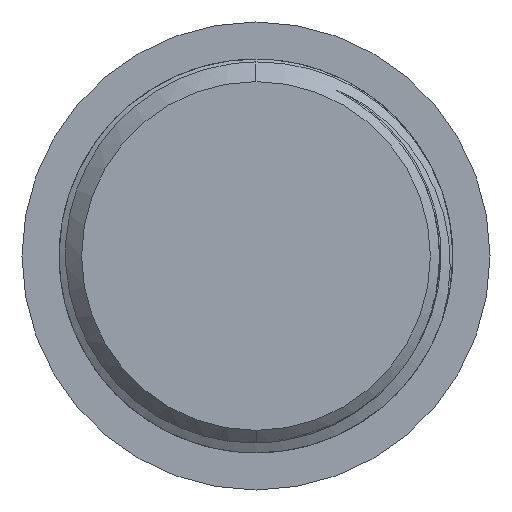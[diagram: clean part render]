
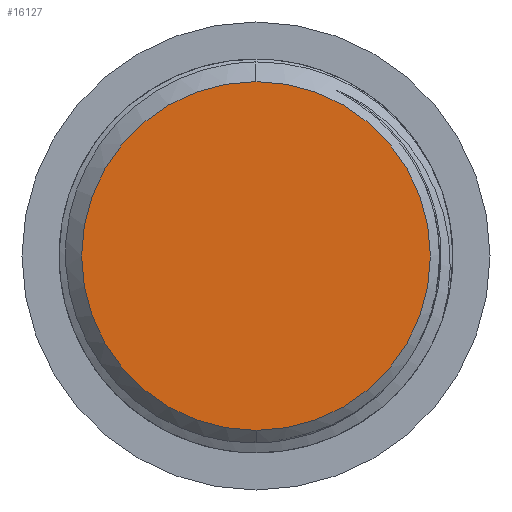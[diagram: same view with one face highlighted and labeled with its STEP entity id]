
A CAD part, left-side view. The second image highlights one B-rep face of the part: STEP entity #16127.
In plain terms, the highlighted planar face has unit normal (-1, 0, 0).
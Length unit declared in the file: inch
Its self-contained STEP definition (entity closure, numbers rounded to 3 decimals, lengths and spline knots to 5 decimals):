
#1159 = AXIS2_PLACEMENT_3D ( 'NONE', #1273, #14649, #5061 ) ;
#1273 = CARTESIAN_POINT ( 'NONE',  ( -1.4025, 0., 0. ) ) ;
#2027 = CIRCLE ( 'NONE', #12960, 0.3875 ) ;
#2493 = VERTEX_POINT ( 'NONE', #5570 ) ;
#3007 = EDGE_LOOP ( 'NONE', ( #10609, #14067 ) ) ;
#3392 = FACE_OUTER_BOUND ( 'NONE', #3007, .T. ) ;
#3484 = DIRECTION ( 'NONE',  ( -1., 0., 0. ) ) ;
#4785 = VERTEX_POINT ( 'NONE', #15247 ) ;
#5061 = DIRECTION ( 'NONE',  ( 0., 0., -1. ) ) ;
#5570 = CARTESIAN_POINT ( 'NONE',  ( -1.4025, 0., -0.3875 ) ) ;
#5936 = CIRCLE ( 'NONE', #1159, 0.3875 ) ;
#8105 = DIRECTION ( 'NONE',  ( 0., 0., -1. ) ) ;
#8361 = DIRECTION ( 'NONE',  ( 1., 0., 0. ) ) ;
#9864 = AXIS2_PLACEMENT_3D ( 'NONE', #14213, #3484, #15432 ) ;
#10609 = ORIENTED_EDGE ( 'NONE', *, *, #11600, .F. ) ;
#11387 = PLANE ( 'NONE',  #9864 ) ;
#11600 = EDGE_CURVE ( 'NONE', #2493, #4785, #5936, .T. ) ;
#12233 = CARTESIAN_POINT ( 'NONE',  ( -1.4025, 0., 0. ) ) ;
#12960 = AXIS2_PLACEMENT_3D ( 'NONE', #12233, #8361, #8105 ) ;
#14067 = ORIENTED_EDGE ( 'NONE', *, *, #15997, .F. ) ;
#14213 = CARTESIAN_POINT ( 'NONE',  ( -1.4025, 0.3875, 0. ) ) ;
#14649 = DIRECTION ( 'NONE',  ( 1., 0., 0. ) ) ;
#15247 = CARTESIAN_POINT ( 'NONE',  ( -1.4025, 0., 0.3875 ) ) ;
#15432 = DIRECTION ( 'NONE',  ( 0., 0., 1. ) ) ;
#15997 = EDGE_CURVE ( 'NONE', #4785, #2493, #2027, .T. ) ;
#16127 = ADVANCED_FACE ( 'NONE', ( #3392 ), #11387, .T. ) ;
